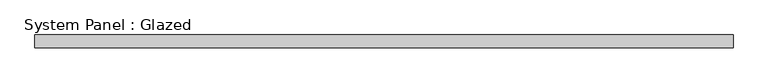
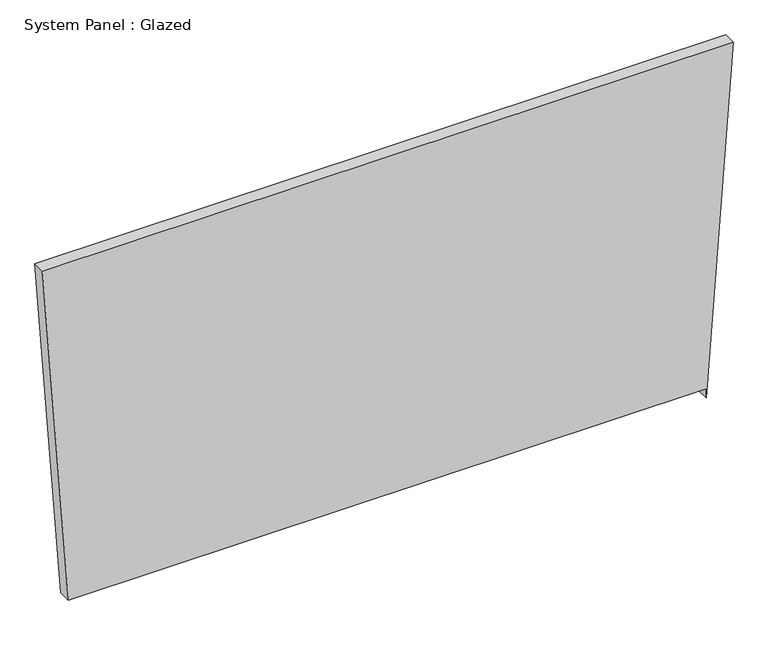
"""IFC4 building model written with IfcOpenShell, lengths in millimetres: plate geometry, System Panel : Glazed."""

from ifc_helpers import new_model, si_unit, frame, origin, place, context, project, spatial, polyline, outline, extrude, source, transform, mapped, element, save


def system_panel_glazed_18ed63e1(model_context):
    return source(origin(), model_context, "Body", "SweptSolid", [
        extrude(outline(polyline([(19.05, 628.3577422), (0.0, 628.3577866), (722.9924498, 681.0396783), (722.9930268, -681.0396783), (19.0470691, -629.7456368), (19.05, 628.3577422)])), frame((0.0, 19.05, 0.0), z_axis=(0.0, 1.0, 0.0), x_axis=(0.0, 0.0, 1.0)), (0.0, 0.0, 1.0), 25.4),
    ])


if __name__ == "__main__":
    model = new_model("IFC4")
    model_context = context("Model", 3, world=origin())
    ifc_project = project(units=[si_unit("LENGTHUNIT", "METRE", prefix="MILLI")], contexts=[model_context])
    site = spatial("IfcSite", under=ifc_project)
    building = spatial("IfcBuilding", under=site)
    placement = place(None, origin())
    system_panel_glazed_shape = system_panel_glazed_18ed63e1(model_context)
    element("IfcPlate", 1, ObjectType="System Panel : Glazed", at=placement, inside=building, context=model_context, shape_type="MappedRepresentation", body=[
        mapped(system_panel_glazed_shape, transform((0.0, 0.0, 0.0), x_axis=(1.0, 0.0, 0.0), y_axis=(0.0, 1.0, 0.0), z_axis=(0.0, 0.0, 1.0))),
    ])
    save(model, "model.ifc")
